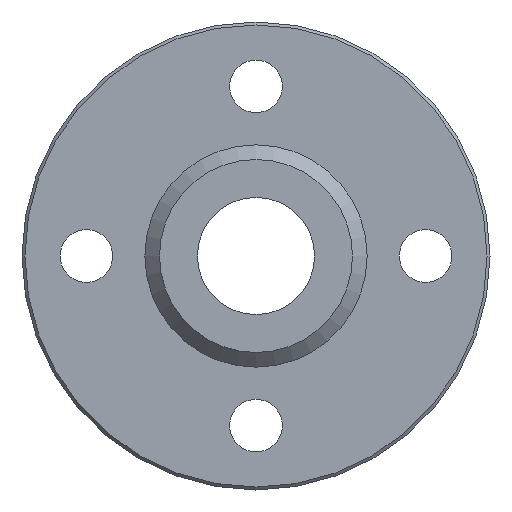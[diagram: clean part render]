
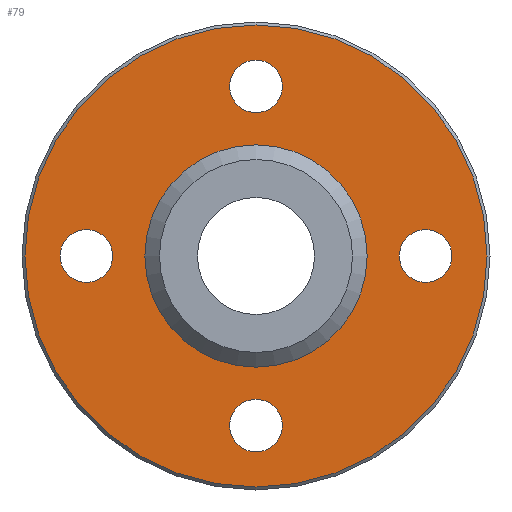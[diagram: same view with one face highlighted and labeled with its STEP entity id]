
A CAD part, left-side view. The second image highlights one B-rep face of the part: STEP entity #79.
In plain terms, the highlighted planar face has unit normal (-1, 0, 0).
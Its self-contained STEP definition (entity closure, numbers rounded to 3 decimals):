
#79=ADVANCED_FACE('',(#109,#110,#111,#112,#113,#114),#115,.F.);
#109=FACE_OUTER_BOUND('',#180,.T.);
#110=FACE_BOUND('',#181,.T.);
#111=FACE_BOUND('',#182,.T.);
#112=FACE_BOUND('',#183,.T.);
#113=FACE_BOUND('',#184,.T.);
#114=FACE_BOUND('',#185,.T.);
#115=PLANE('',#186);
#180=EDGE_LOOP('',(#259));
#181=EDGE_LOOP('',(#260));
#182=EDGE_LOOP('',(#261));
#183=EDGE_LOOP('',(#262));
#184=EDGE_LOOP('',(#263));
#185=EDGE_LOOP('',(#264));
#186=AXIS2_PLACEMENT_3D('',#265,#266,#267);
#259=ORIENTED_EDGE('',*,*,#357,.T.);
#260=ORIENTED_EDGE('',*,*,#358,.T.);
#261=ORIENTED_EDGE('',*,*,#359,.T.);
#262=ORIENTED_EDGE('',*,*,#360,.T.);
#263=ORIENTED_EDGE('',*,*,#361,.T.);
#264=ORIENTED_EDGE('',*,*,#356,.T.);
#265=CARTESIAN_POINT('',(-9.0,19.746,0.0));
#266=DIRECTION('',(1.0,0.0,0.0));
#267=DIRECTION('',(0.0,0.0,-1.0));
#356=EDGE_CURVE('',#385,#385,#386,.T.);
#357=EDGE_CURVE('',#387,#387,#388,.T.);
#358=EDGE_CURVE('',#389,#389,#390,.T.);
#359=EDGE_CURVE('',#391,#391,#392,.T.);
#360=EDGE_CURVE('',#393,#393,#394,.T.);
#361=EDGE_CURVE('',#395,#395,#396,.T.);
#385=VERTEX_POINT('',#435);
#386=CIRCLE('',#436,9.5);
#387=VERTEX_POINT('',#437);
#388=CIRCLE('',#438,19.746);
#389=VERTEX_POINT('',#439);
#390=CIRCLE('',#440,2.25);
#391=VERTEX_POINT('',#441);
#392=CIRCLE('',#442,2.25);
#393=VERTEX_POINT('',#443);
#394=CIRCLE('',#444,2.25);
#395=VERTEX_POINT('',#445);
#396=CIRCLE('',#446,2.25);
#435=CARTESIAN_POINT('',(-9.0,0.0,-9.5));
#436=AXIS2_PLACEMENT_3D('',#489,#490,#491);
#437=CARTESIAN_POINT('',(-9.0,0.0,19.746));
#438=AXIS2_PLACEMENT_3D('',#492,#493,#494);
#439=CARTESIAN_POINT('',(-9.0,0.0,12.25));
#440=AXIS2_PLACEMENT_3D('',#495,#496,#497);
#441=CARTESIAN_POINT('',(-9.0,-14.5,-2.25));
#442=AXIS2_PLACEMENT_3D('',#498,#499,#500);
#443=CARTESIAN_POINT('',(-9.0,0.0,-16.75));
#444=AXIS2_PLACEMENT_3D('',#501,#502,#503);
#445=CARTESIAN_POINT('',(-9.0,14.5,-2.25));
#446=AXIS2_PLACEMENT_3D('',#504,#505,#506);
#489=CARTESIAN_POINT('',(-9.0,0.0,0.0));
#490=DIRECTION('',(1.0,0.0,0.0));
#491=DIRECTION('',(0.0,0.0,-1.0));
#492=CARTESIAN_POINT('',(-9.0,0.0,0.0));
#493=DIRECTION('',(-1.0,0.0,0.0));
#494=DIRECTION('',(0.0,0.0,1.0));
#495=CARTESIAN_POINT('',(-9.0,0.0,14.5));
#496=DIRECTION('',(1.0,0.0,0.0));
#497=DIRECTION('',(0.0,0.0,-1.0));
#498=CARTESIAN_POINT('',(-9.0,-14.5,0.0));
#499=DIRECTION('',(1.0,0.0,0.0));
#500=DIRECTION('',(0.0,0.0,-1.0));
#501=CARTESIAN_POINT('',(-9.0,0.0,-14.5));
#502=DIRECTION('',(1.0,0.0,0.0));
#503=DIRECTION('',(0.0,0.0,-1.0));
#504=CARTESIAN_POINT('',(-9.0,14.5,0.0));
#505=DIRECTION('',(1.0,0.0,0.0));
#506=DIRECTION('',(0.0,0.0,-1.0));
